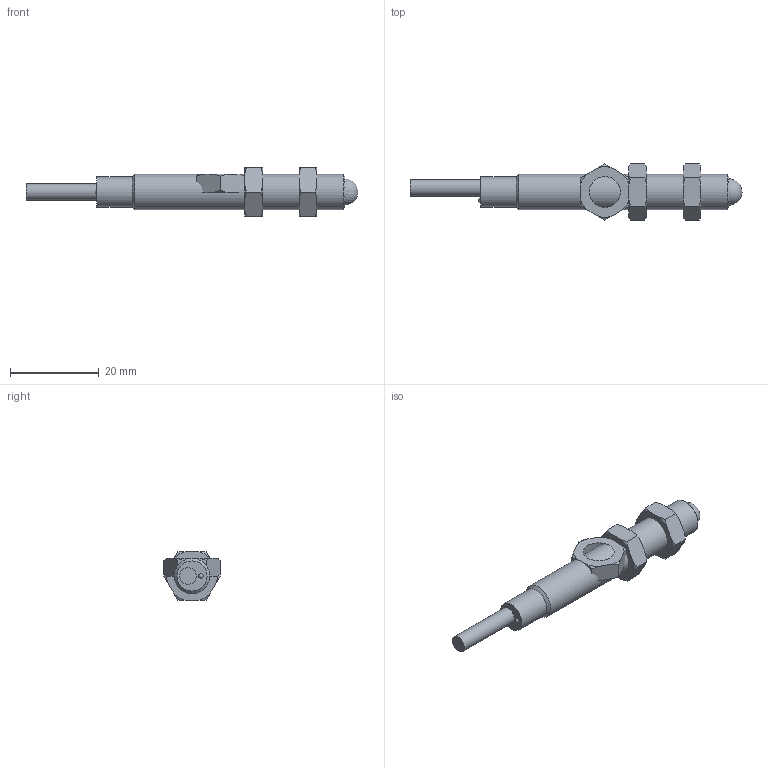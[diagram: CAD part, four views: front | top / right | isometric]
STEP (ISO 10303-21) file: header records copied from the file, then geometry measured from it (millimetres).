
FILE_DESCRIPTION( ( 'Unknown' ), '1' );
FILE_NAME( '//server-file-1/e_me/Solid Edge/Models/Dokumentationen/Opto/FxAM08/Vereinfachte Modelle/Neutralformate/FxAM08_Kabel_LED_Linse.stp', 'Unknown', ( 'Unknown' ), ( 'Unknown' ), 'XStep 1.0', 'Unknown', ' ' );
FILE_SCHEMA( ( 'CONFIG_CONTROL_DESIGN' ) );
Length unit declared in the file: millimetre
Products named in the file (3): Assem1; 101467 M8x0.75; FxAM08_Kabel_LED_Linse_oA
Bounding box: 74.98 x 12.7 x 11 mm (x, y, z)
Volume: 6661.1 mm3; surface area: 4476.5 mm2
Topology: 5 solids, 5 shells, 89 faces, 230 edges, 151 vertices
Faces by surface type: bspline 36, plane 32, cylinder 13, sphere 4, cone 4
Full cylindrical faces by diameter (mm): 3.8 x2, 6 x2, 6.8 x4, 7 x3, 8 x2
Entity records: 1231 total; most frequent: CARTESIAN_POINT 424, ORIENTED_EDGE 136, DIRECTION 122, EDGE_CURVE 68, AXIS2_PLACEMENT_3D 52, VERTEX_POINT 50, EDGE_LOOP 48, FACE_OUTER_BOUND 40
